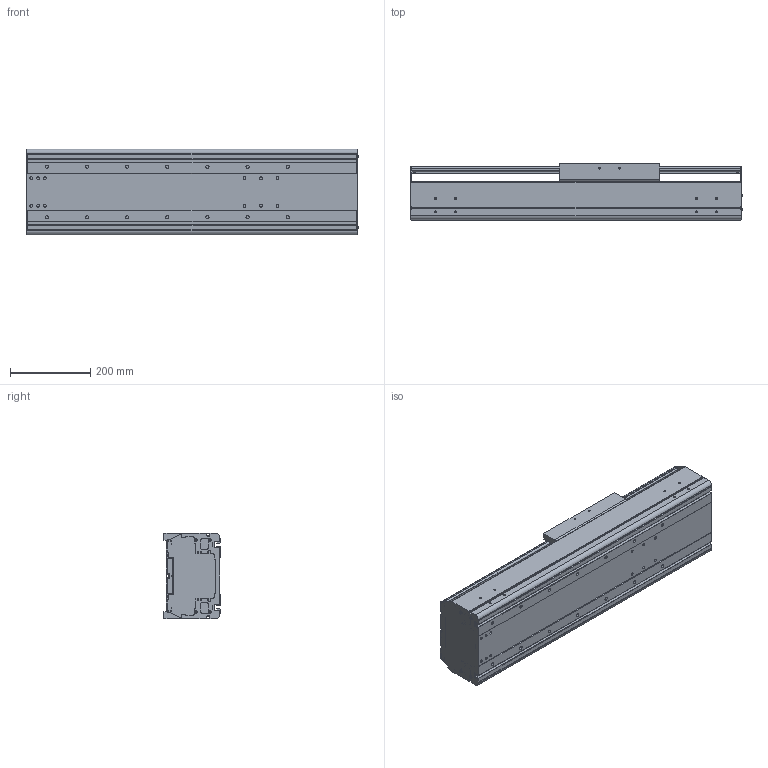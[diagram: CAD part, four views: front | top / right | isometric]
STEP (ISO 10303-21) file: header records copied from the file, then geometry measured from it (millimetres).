
FILE_DESCRIPTION((''),'2;1');
FILE_NAME('BE60J-ST-M_B-30_IGS_PRT','2017-06-18T',(' '),(''),'PRO/ENGINEER BY PARAMETRIC TECHNOLOGY CORPORATION, 2015030','PRO/ENGINEER BY PARAMETRIC TECHNOLOGY CORPORATION, 2015030','');
FILE_SCHEMA(('CONFIG_CONTROL_DESIGN'));
Length unit declared in the file: millimetre
Products named in the file (1): BE60J-ST-M_B-30_IGS_PRT
Bounding box: 827.4 x 140 x 214 mm (x, y, z)
Volume: 6934088.3 mm3; surface area: 1851729 mm2
Topology: 2 solids, 28 shells, 1061 faces, 2834 edges, 1824 vertices
Faces by surface type: plane 511, cylinder 450, cone 52, sphere 24, torus 24
Entity records: 33443 total; most frequent: CARTESIAN_POINT 6282, DIRECTION 5792, ORIENTED_EDGE 5476, EDGE_CURVE 2786, AXIS2_PLACEMENT_3D 2054, VERTEX_POINT 1824, VECTOR 1684, LINE 1684
